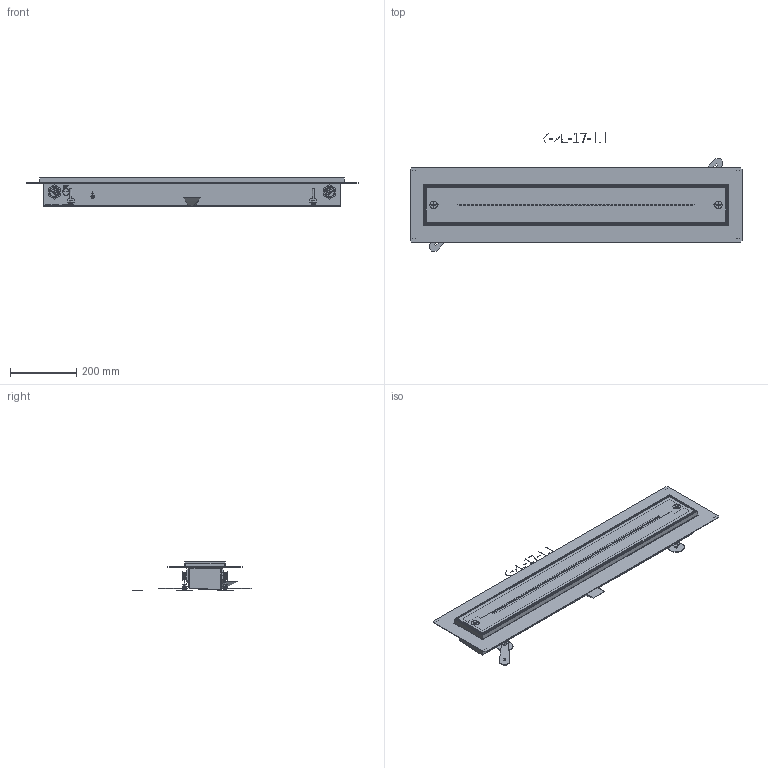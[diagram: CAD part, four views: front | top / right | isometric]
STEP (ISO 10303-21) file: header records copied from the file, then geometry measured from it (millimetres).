
FILE_DESCRIPTION(/* description */ (''),/* implementation_level */ '2;1');
FILE_NAME(/* name */ '3d-Joulia_6-92-17-0.0',/* time_stamp */ '2025-01-20T16:01:45+01:00',/* author */ (''),/* organization */ (''),/* preprocessor_version */ 'ST-DEVELOPER v16.5',/* originating_system */ 'Rhino 7.37',/* authorisation */ '');
FILE_SCHEMA (('AUTOMOTIVE_DESIGN_CC2'));
Products named in the file (1): Document
Bounding box: 1001.7 x 356.55 x 88.31 mm (x, y, z)
Volume: 1133451.7 mm3; surface area: 1527712.9 mm2
Topology: 28 solids, 107 shells, 1929 faces, 5198 edges, 3403 vertices
Faces by surface type: bspline 1929
Entity records: 198594 total; most frequent: CARTESIAN_POINT 134305, B_SPLINE_CURVE_WITH_KNOTS 11973, ORIENTED_EDGE 9922, PCURVE 9922, DEFINITIONAL_REPRESENTATION 9922, SURFACE_CURVE 5128, EDGE_CURVE 5128, VERTEX_POINT 3392
